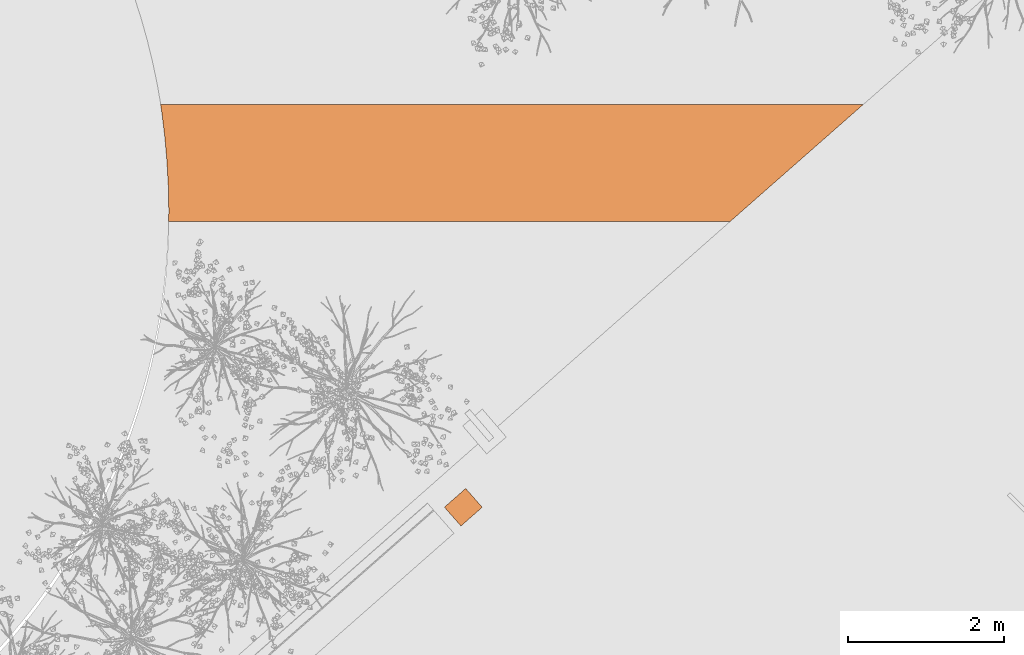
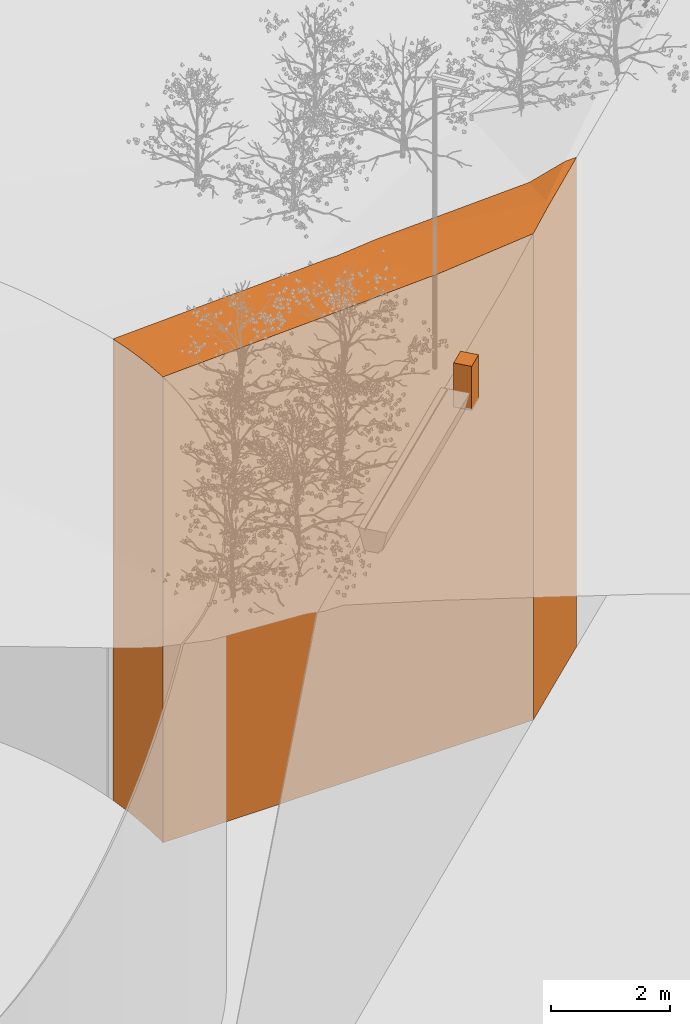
# One storey, part 225 of 246: 2 proxies.
"""IFC2X3 building model written with IfcOpenShell, lengths in millimetres."""

from ifc_helpers import new_model, entity, si_unit, converted_unit, derived_unit, money_unit, direction, frame, origin_with_axes, place, context, subcontext, project, spatial, faceted_brep, material, type_object, element, save


model = new_model("IFC2X3")

# Units and contexts
model_context = context("Model", 3, precision=0.01, world=origin_with_axes(), true_north=direction((0.0, 1.0)))
body_context = subcontext(model_context, "Body", "Model", "MODEL_VIEW")
ifc_project = project(units=[si_unit("LENGTHUNIT", "METRE", prefix="MILLI"), si_unit("AREAUNIT", "SQUARE_METRE"), si_unit("VOLUMEUNIT", "CUBIC_METRE"), converted_unit("PLANEANGLEUNIT", "DEGREE", entity("IfcPlaneAngleMeasure", 0.0174532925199), si_unit("PLANEANGLEUNIT", "RADIAN"), dimensions=[0, 0, 0, 0, 0, 0, 0]), si_unit("SOLIDANGLEUNIT", "STERADIAN"), money_unit("EUR"), converted_unit("TIMEUNIT", "Year", entity("IfcTimeMeasure", 31556926.0), si_unit("TIMEUNIT", "SECOND"), dimensions=[0, 0, 1, 0, 0, 0, 0]), si_unit("MASSUNIT", "GRAM", prefix="KILO"), si_unit("THERMODYNAMICTEMPERATUREUNIT", "DEGREE_CELSIUS"), si_unit("LUMINOUSINTENSITYUNIT", "LUMEN"), si_unit("ENERGYUNIT", "JOULE", prefix="MEGA"), derived_unit("THERMALCONDUCTANCEUNIT", [(si_unit("POWERUNIT", "WATT"), 1), (si_unit("LENGTHUNIT", "METRE"), -1), (si_unit("THERMODYNAMICTEMPERATUREUNIT", "KELVIN"), -1)]), derived_unit("SPECIFICHEATCAPACITYUNIT", [(si_unit("ENERGYUNIT", "JOULE"), 1), (si_unit("MASSUNIT", "GRAM", prefix="KILO"), -1), (si_unit("THERMODYNAMICTEMPERATUREUNIT", "KELVIN"), -1)]), derived_unit("MASSDENSITYUNIT", [(si_unit("MASSUNIT", "GRAM", prefix="KILO"), 1), (si_unit("VOLUMEUNIT", "CUBIC_METRE"), -1)])], contexts=[model_context])

# Site, building, storey
site_placement = place(None, origin_with_axes())
site = spatial("IfcSite", under=ifc_project, at=site_placement, Name="L.Koidula tn 11b", CompositionType="ELEMENT")
building_placement = place(site_placement, origin_with_axes())
building = spatial("IfcBuilding", under=site, at=building_placement, Name="Rakvere Riigigümnaasium", CompositionType="ELEMENT")
storey_placement = place(building_placement, origin_with_axes())
storey = spatial("IfcBuildingStorey", under=building, at=storey_placement, Name="1.korrus 0,00", CompositionType="ELEMENT", Elevation=0.0)

# Proxies
ifc_material_1 = material(Name="Killustik")
building_element_proxy_type_1 = type_object("IfcBuildingElementProxyType", Name="Killustik", PredefinedType="NOTDEFINED")
proxy_1_placement = place(storey_placement, frame((12599.6864577, 87692.7054459, -10000.0), z_axis=(0.0, 0.0, 1.0), x_axis=(1.0, 0.0, 0.0)))
element("IfcBuildingElementProxy", 1, at=proxy_1_placement, inside=storey, type_object=building_element_proxy_type_1, material=ifc_material_1, Name="Olemasolev kõnnitee", context=body_context, shape_type="Brep", body=[
    faceted_brep([(8069.55796005, 1499.9981774, 9825.69924429), (8762.05759752, 1499.9981774, 10014.7144145), (8983.12007971, 1499.9981774, 10019.9133662), (8983.12007971, 1499.9981774, 0.0), (0.0, 1499.9981774, 0.0), (0.0, 1499.9981774, 9442.38183874), (3866.93969705, 1499.9981774, 9612.91605374), (4164.70261429, 1499.9981774, 9627.75194465), (4344.34744465, 1499.9981774, 9626.84676915), (5086.0858433, 1499.9981774, 9698.72581961), (7915.79305333, 674.786646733, 10000.0), (8014.67441267, 648.603660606, 10002.4901044), (7861.31481167, 513.779862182, 10000.0), (7277.04517881, 0.127957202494, 9960.22287103), (7277.04517881, 0.127957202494, 0.0), (7995.43357012, 631.688361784, 10002.2604887), (103.476398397, 0.0, 0.0), (105.132056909, 153.82864286, 0.0), (98.4274934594, 461.430689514, 0.0), (81.7141547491, 768.651513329, 0.0), (55.0097528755, 1075.16553454, 0.0), (18.3425880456, 1380.64792241, 0.0), (18.3425880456, 1380.64792241, 9450.42212943), (55.0097528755, 1075.16553454, 9470.54819707), (81.7141547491, 768.651513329, 9490.29740741), (98.4274934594, 461.430689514, 9509.64883107), (105.132056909, 153.82864286, 9528.58196021), (103.476398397, 0.0, 9537.82934525), (3373.90408818, 0.0583356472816, 9682.05351078), (5265.51691284, 0.0920769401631, 9776.30008161), (5373.47192157, 0.0940025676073, 9775.75593142)], [[[0, 1, 2, 3, 4, 5, 6, 7, 8, 9]], [[1, 0, 10]], [[11, 2, 1, 10]], [[12, 13, 14, 3, 2, 11, 15]], [[4, 3, 14, 16, 17, 18, 19, 20, 21]], [[22, 5, 4, 21]], [[6, 5, 22, 23, 24, 25, 26, 27, 28]], [[28, 29, 7, 6]], [[29, 30, 8, 7]], [[13, 12, 10, 9, 8, 30]], [[0, 9, 10]], [[15, 11, 10]], [[28, 27, 16, 14, 13, 30, 29]], [[12, 15, 10]], [[27, 26, 17, 16]], [[26, 25, 18, 17]], [[25, 24, 19, 18]], [[24, 23, 20, 19]], [[23, 22, 21, 20]]]),
])
ifc_material_2 = material(Name="ET-05_Teras")
building_element_proxy_type_2 = type_object("IfcBuildingElementProxyType", Name="ET-05_Teras 320", PredefinedType="NOTDEFINED")
proxy_2_placement = place(storey_placement, frame((16499.3484384, 84282.9027053, -95.777985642), z_axis=(0.0, 0.0, 1.0), x_axis=(-0.751092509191, -0.660196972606, 0.0)))
element("IfcBuildingElementProxy", 2, at=proxy_2_placement, inside=storey, type_object=building_element_proxy_type_2, material=ifc_material_2, Name="KMA-232", context=body_context, shape_type="Brep", body=[
    faceted_brep([(0.0, 320.0, 0.0), (362.0, 320.0, 0.0), (362.0, 0.0, 0.0), (0.0, 0.0, 0.0), (0.0, 320.0, 900.0), (362.0, 320.0, 900.0), (362.0, 0.0, 900.0), (0.0, 0.0, 900.0)], [[[0, 1, 2, 3]], [[4, 5, 1, 0]], [[2, 1, 5, 6]], [[3, 2, 6, 7]], [[4, 0, 3, 7]], [[7, 6, 5, 4]]]),
])

save(model, "model.ifc")
